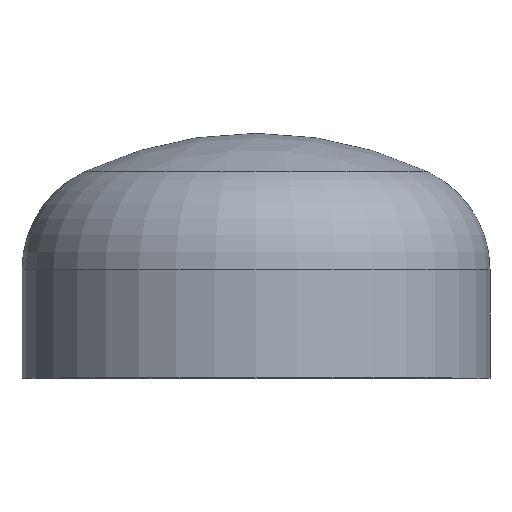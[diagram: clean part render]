
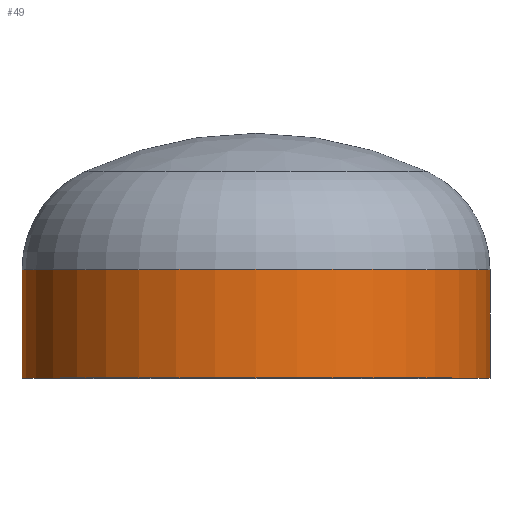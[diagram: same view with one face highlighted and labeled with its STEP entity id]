
A CAD part, top view. The second image highlights one B-rep face of the part: STEP entity #49.
In plain terms, the highlighted cylindrical face has radius 161.95 mm (diameter 323.9 mm), a partial arc.
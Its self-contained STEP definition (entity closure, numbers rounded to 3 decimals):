
#1 = EDGE_LOOP ( 'NONE', ( #147, #98, #42, #285 ) ) ;
#17 = CARTESIAN_POINT ( 'NONE',  ( 161.95, 0., 0. ) ) ;
#20 = AXIS2_PLACEMENT_3D ( 'NONE', #375, #179, #182 ) ;
#27 = CARTESIAN_POINT ( 'NONE',  ( 161.95, 75., 0. ) ) ;
#34 = DIRECTION ( 'NONE',  ( 0., -1., 0. ) ) ;
#38 = CARTESIAN_POINT ( 'NONE',  ( -161.95, 0., 0. ) ) ;
#42 = ORIENTED_EDGE ( 'NONE', *, *, #317, .F. ) ;
#46 = AXIS2_PLACEMENT_3D ( 'NONE', #90, #100, #106 ) ;
#49 = ADVANCED_FACE ( 'NONE', ( #151 ), #329, .T. ) ;
#78 = VERTEX_POINT ( 'NONE', #282 ) ;
#87 = AXIS2_PLACEMENT_3D ( 'NONE', #295, #256, #355 ) ;
#90 = CARTESIAN_POINT ( 'NONE',  ( 0., 0., 0. ) ) ;
#96 = EDGE_CURVE ( 'NONE', #340, #140, #138, .T. ) ;
#98 = ORIENTED_EDGE ( 'NONE', *, *, #304, .T. ) ;
#100 = DIRECTION ( 'NONE',  ( 0., -1., 0. ) ) ;
#101 = VERTEX_POINT ( 'NONE', #236 ) ;
#106 = DIRECTION ( 'NONE',  ( 1., 0., 0. ) ) ;
#138 = LINE ( 'NONE', #252, #209 ) ;
#140 = VERTEX_POINT ( 'NONE', #17 ) ;
#147 = ORIENTED_EDGE ( 'NONE', *, *, #341, .T. ) ;
#151 = FACE_OUTER_BOUND ( 'NONE', #1, .T. ) ;
#153 = CIRCLE ( 'NONE', #20, 161.95 ) ;
#179 = DIRECTION ( 'NONE',  ( 0., -1., 0. ) ) ;
#182 = DIRECTION ( 'NONE',  ( 1., 0., 0. ) ) ;
#209 = VECTOR ( 'NONE', #250, 1000. ) ;
#232 = VECTOR ( 'NONE', #34, 1000. ) ;
#236 = CARTESIAN_POINT ( 'NONE',  ( -161.95, 0., 0. ) ) ;
#250 = DIRECTION ( 'NONE',  ( 0., -1., 0. ) ) ;
#252 = CARTESIAN_POINT ( 'NONE',  ( 161.95, 0., 0. ) ) ;
#256 = DIRECTION ( 'NONE',  ( 0., -1., 0. ) ) ;
#282 = CARTESIAN_POINT ( 'NONE',  ( -161.95, 75., 0. ) ) ;
#285 = ORIENTED_EDGE ( 'NONE', *, *, #96, .F. ) ;
#293 = LINE ( 'NONE', #38, #232 ) ;
#295 = CARTESIAN_POINT ( 'NONE',  ( 0., 0., 0. ) ) ;
#304 = EDGE_CURVE ( 'NONE', #78, #101, #293, .T. ) ;
#317 = EDGE_CURVE ( 'NONE', #140, #101, #408, .T. ) ;
#329 = CYLINDRICAL_SURFACE ( 'NONE', #87, 161.95 ) ;
#340 = VERTEX_POINT ( 'NONE', #27 ) ;
#341 = EDGE_CURVE ( 'NONE', #340, #78, #153, .T. ) ;
#355 = DIRECTION ( 'NONE',  ( 1., 0., 0. ) ) ;
#375 = CARTESIAN_POINT ( 'NONE',  ( 0., 75., 0. ) ) ;
#408 = CIRCLE ( 'NONE', #46, 161.95 ) ;
